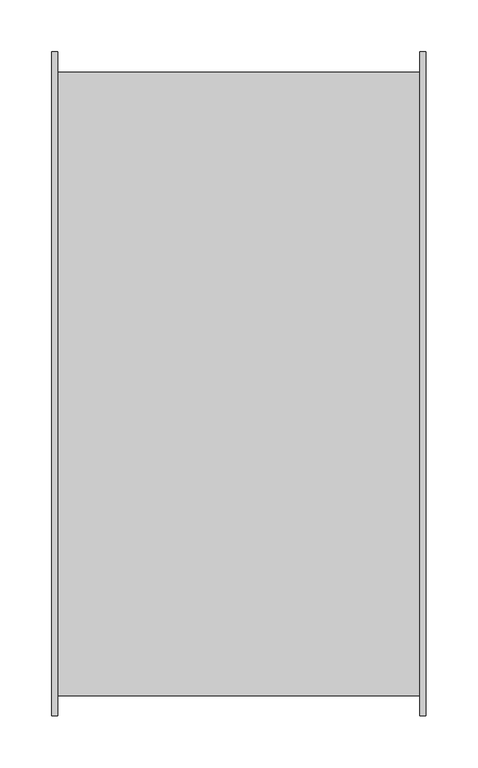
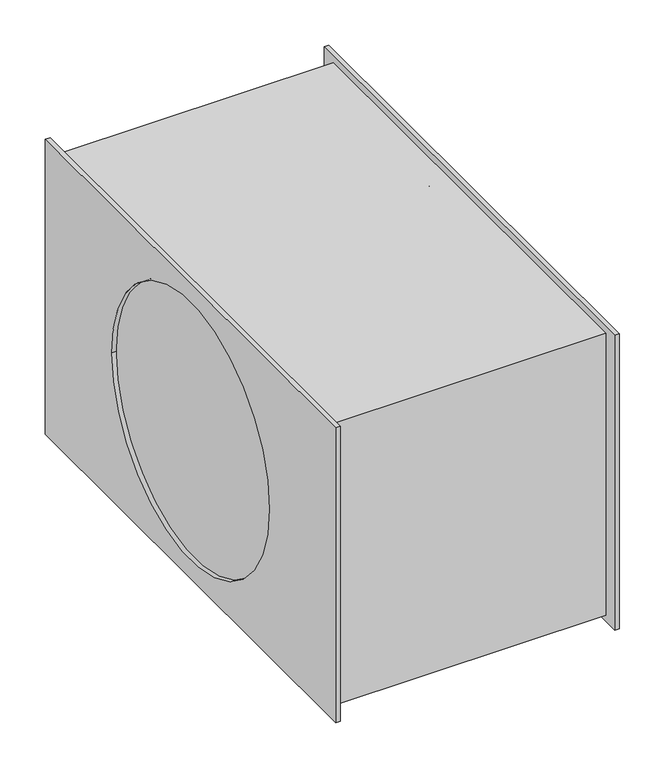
"""IFC4 building model written with IfcOpenShell, lengths in millimetres: unitary equipment geometry, VE-Wentylator-ParaForma-Harmann-JETTEC_REC_EC-Nawiewny : 060/35/3000EC."""

from ifc_helpers import new_model, si_unit, frame, origin, place, context, project, spatial, polyline, circle_curve, source, transform, mapped, element, save
from ifc_brep_helpers import plane_surface, revolved_surface, advanced_brep


def unitary_equipment_46f6b69a(model_context):
    return source(origin(), model_context, "Body", "AdvancedBrep", [
        advanced_brep(
        [(174.3, -319.5, -198.0), (174.3, -319.5, 198.0), (174.3, 319.5, 198.0), (174.3, 319.5, -198.0), (174.3, -299.8, 188.7), (174.3, -299.8, -189.9), (174.3, 299.8, -189.9), (174.3, 299.8, 188.7), (180.1, -319.5, -198.0), (180.1, 319.5, -198.0), (180.1, 319.5, 198.0), (180.1, -319.5, 198.0), (180.1, -173.25, 0.0), (180.1, 173.25, 0.0), (174.3, 173.25, 0.0), (174.3, -173.25, 0.0), (-174.3, -173.25, 0.0), (-174.3, 173.25, 0.0), (-174.3, -299.8, -189.9), (-174.3, -299.8, 188.7), (-174.3, 299.8, 188.7), (-174.3, 299.8, -189.9), (-180.1, -319.5, -198.0), (-180.1, -319.5, 198.0), (-180.1, 319.5, 198.0), (-180.1, 319.5, -198.0), (-180.1, 173.25, 0.0), (-180.1, -173.25, 0.0), (-174.3, -319.5, -198.0), (-174.3, 319.5, -198.0), (-174.3, 319.5, 198.0), (-174.3, -319.5, 198.0)],
        [
            (0, 1),
            (1, 2),
            (2, 3),
            (3, 0),
            (4, 5),
            (5, 6),
            (6, 7),
            (7, 4),
            (8, 9),
            (9, 10),
            (10, 11),
            (11, 8),
            (12, 13, circle_curve(frame((180.1, 0.0, 0.0), z_axis=(-1.0, 0.0, 0.0), x_axis=(0.0, 1.0, 0.0)), 173.25)),
            (13, 12, circle_curve(frame((180.1, 0.0, 0.0), z_axis=(-1.0, 0.0, 0.0), x_axis=(0.0, 1.0, 0.0)), 173.25)),
            (0, 8),
            (11, 1),
            (10, 2),
            (9, 3),
            (14, 13),
            (12, 15),
            (15, 14, circle_curve(frame((174.3, 0.0, 0.0), z_axis=(-1.0, 0.0, 0.0), x_axis=(0.0, 1.0, 0.0)), 173.25)),
            (14, 15, circle_curve(frame((174.3, 0.0, 0.0), z_axis=(-1.0, 0.0, 0.0), x_axis=(0.0, 1.0, 0.0)), 173.25)),
            (16, 17, circle_curve(frame((-174.3, 0.0, 0.0), z_axis=(-1.0, 0.0, 0.0), x_axis=(0.0, 1.0, 0.0)), 173.25)),
            (17, 16, circle_curve(frame((-174.3, 0.0, 0.0), z_axis=(-1.0, 0.0, 0.0), x_axis=(0.0, 1.0, 0.0)), 173.25)),
            (18, 5),
            (4, 19),
            (19, 18),
            (7, 20),
            (20, 19),
            (6, 21),
            (21, 20),
            (18, 21),
            (22, 23),
            (23, 24),
            (24, 25),
            (25, 22),
            (26, 27, circle_curve(frame((-180.1, 0.0, 0.0), z_axis=(1.0, 0.0, 0.0), x_axis=(0.0, 1.0, 0.0)), 173.25)),
            (27, 26, circle_curve(frame((-180.1, 0.0, 0.0), z_axis=(1.0, 0.0, 0.0), x_axis=(0.0, 1.0, 0.0)), 173.25)),
            (28, 29),
            (29, 30),
            (30, 31),
            (31, 28),
            (22, 28),
            (31, 23),
            (30, 24),
            (29, 25),
            (26, 17),
            (16, 27),
        ],
        [
            plane_surface(frame((174.3, 0.0, 0.0), z_axis=(-1.0, 0.0, 0.0), x_axis=(0.0, 0.0, 1.0))),
            plane_surface(frame((180.1, 0.0, 0.0), z_axis=(1.0, 0.0, 0.0), x_axis=(0.0, 0.0, 1.0))),
            plane_surface(frame((174.3, -319.5, -198.0), z_axis=(0.0, -1.0, 0.0), x_axis=(1.0, 0.0, 0.0))),
            plane_surface(frame((174.3, -319.5, 198.0), z_axis=(0.0, 0.0, 1.0), x_axis=(1.0, 0.0, 0.0))),
            plane_surface(frame((174.3, 319.5, 198.0), z_axis=(0.0, 1.0, 0.0), x_axis=(1.0, 0.0, 0.0))),
            plane_surface(frame((174.3, 319.5, -198.0), z_axis=(0.0, 0.0, -1.0), x_axis=(1.0, 0.0, 0.0))),
            revolved_surface(polyline([(174.3, 173.25, 0.0), (180.1, 173.25, 0.0)]), (174.3, 0.0, 0.0), (-1.0, 0.0, 0.0)),
            plane_surface(frame((-174.3, 0.0, 0.0), z_axis=(-1.0, 0.0, 0.0), x_axis=(0.0, 0.0, 1.0))),
            plane_surface(frame((174.3, 0.0, 0.0), z_axis=(1.0, 0.0, 0.0), x_axis=(0.0, 0.0, 1.0))),
            plane_surface(frame((-174.3, -299.8, -189.9), z_axis=(0.0, -1.0, 0.0), x_axis=(1.0, 0.0, 0.0))),
            plane_surface(frame((-174.3, -299.8, 188.7), z_axis=(0.0, 0.0, 1.0), x_axis=(1.0, 0.0, 0.0))),
            plane_surface(frame((-174.3, 299.8, 188.7), z_axis=(0.0, 1.0, 0.0), x_axis=(1.0, 0.0, 0.0))),
            plane_surface(frame((-174.3, 299.8, -189.9), z_axis=(0.0, 0.0, -1.0), x_axis=(1.0, 0.0, 0.0))),
            plane_surface(frame((-180.1, 0.0, 0.0), z_axis=(-1.0, 0.0, 0.0), x_axis=(0.0, 0.0, 1.0))),
            plane_surface(frame((-174.3, 0.0, 0.0), z_axis=(1.0, 0.0, 0.0), x_axis=(0.0, 0.0, 1.0))),
            plane_surface(frame((-180.1, -319.5, -198.0), z_axis=(0.0, -1.0, 0.0), x_axis=(1.0, 0.0, 0.0))),
            plane_surface(frame((-180.1, -319.5, 198.0), z_axis=(0.0, 0.0, 1.0), x_axis=(1.0, 0.0, 0.0))),
            plane_surface(frame((-180.1, 319.5, 198.0), z_axis=(0.0, 1.0, 0.0), x_axis=(1.0, 0.0, 0.0))),
            plane_surface(frame((-180.1, 319.5, -198.0), z_axis=(0.0, 0.0, -1.0), x_axis=(1.0, 0.0, 0.0))),
            revolved_surface(polyline([(-180.1, 173.25, 0.0), (-174.3, 173.25, 0.0)]), (-180.1, 0.0, 0.0), (-1.0, 0.0, 0.0)),
        ],
        [
            (0, [[1, 2, 3, 4], [5, 6, 7, 8]]),
            (1, [[9, 10, 11, 12], [13, 14]]),
            (2, [[-1, 15, -12, 16]]),
            (3, [[-2, -16, -11, 17]]),
            (4, [[-3, -17, -10, 18]]),
            (5, [[-4, -18, -9, -15]]),
            (6, [[19, -13, 20, 21]]),
            (6, [[-19, 22, -20, -14]]),
            (7, [[23, 24]]),
            (8, [[-21, -22]]),
            (9, [[25, -5, 26, 27]]),
            (10, [[-26, -8, 28, 29]]),
            (11, [[-28, -7, 30, 31]]),
            (12, [[-25, 32, -30, -6]]),
            (13, [[33, 34, 35, 36], [37, 38]]),
            (14, [[39, 40, 41, 42], [-27, -29, -31, -32]]),
            (15, [[-33, 43, -42, 44]]),
            (16, [[-34, -44, -41, 45]]),
            (17, [[-35, -45, -40, 46]]),
            (18, [[-36, -46, -39, -43]]),
            (19, [[47, -23, 48, -37]]),
            (19, [[-47, -38, -48, -24]]),
        ],
    ),
    ])


if __name__ == "__main__":
    model = new_model("IFC4")
    model_context = context("Model", 3, world=origin())
    ifc_project = project(units=[si_unit("LENGTHUNIT", "METRE", prefix="MILLI")], contexts=[model_context])
    site = spatial("IfcSite", under=ifc_project)
    building = spatial("IfcBuilding", under=site)
    placement = place(None, origin())
    unitary_equipment_shape = unitary_equipment_46f6b69a(model_context)
    element("IfcUnitaryEquipment", 1, ObjectType="VE-Wentylator-ParaForma-Harmann-JETTEC_REC_EC-Nawiewny : 060/35/3000EC", at=placement, inside=building, context=model_context, shape_type="MappedRepresentation", body=[
        mapped(unitary_equipment_shape, transform((0.0, 0.0, 0.0), x_axis=(1.0, 0.0, 0.0), y_axis=(0.0, 1.0, 0.0), z_axis=(0.0, 0.0, 1.0))),
    ])
    save(model, "model.ifc")
